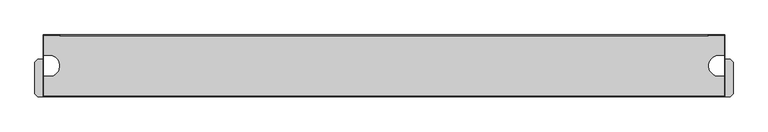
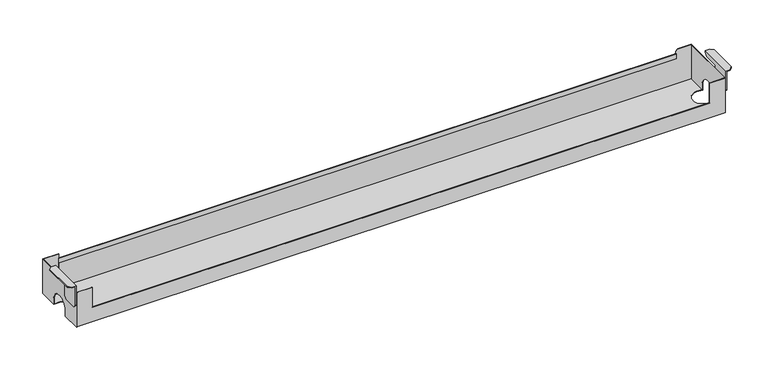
"""IFC4 building model written with IfcOpenShell, lengths in millimetres: furniture geometry, FREZZA_POP AD_Cable tray_for Desk : W1600 mm Structure_ZGBI - Embossed White."""

from ifc_helpers import new_model, si_unit, frame, origin, place, context, project, spatial, polyline, circle_curve, faceted_brep, source, transform, mapped, element, save
from ifc_brep_helpers import plane_surface, cylinder_surface, revolved_surface, advanced_brep


def furniture_a0c20fb1(model_context):
    return source(origin(), model_context, "Body", "SolidModel", [
        faceted_brep([(128.0710678, -203.5, 725.0), (139.0, -203.5, 725.0), (139.0, -115.5, 725.0), (128.0710678, -115.5, 725.0), (121.0, -122.5710678, 725.0), (121.0, -196.4289322, 725.0), (128.0710678, -203.5, 723.0), (121.0, -196.4289322, 723.0), (121.0, -122.5710678, 723.0), (128.0710678, -115.5, 723.0), (137.0, -115.5, 723.0), (137.0, -203.5, 723.0), (137.0, -203.5, 674.0710678), (139.0, -203.5, 674.0710678), (139.0, -115.5, 720.0710678), (137.0, -115.5, 720.0710678), (139.0, -196.4289322, 667.0), (139.0, -165.5710678, 667.0), (139.0, -158.5, 674.0710678), (139.0, -158.5, 713.0), (139.0, -122.5710678, 713.0), (137.0, -165.5710678, 667.0), (137.0, -196.4289322, 667.0), (137.0, -122.5710678, 713.0), (137.0, -158.5, 713.0), (137.0, -158.5, 674.0710678)], [[[0, 1, 2, 3, 4, 5]], [[6, 7, 8, 9, 10, 11]], [[0, 6, 11, 12, 13, 1]], [[0, 5, 7, 6]], [[5, 4, 8, 7]], [[4, 3, 9, 8]], [[9, 3, 2, 14, 15, 10]], [[14, 2, 1, 13, 16, 17, 18, 19, 20]], [[21, 22, 12, 11, 10, 15, 23, 24, 25]], [[17, 16, 22, 21]], [[16, 13, 12, 22]], [[14, 20, 23, 15]], [[20, 19, 24, 23]], [[19, 18, 25, 24]], [[18, 17, 21, 25]]]),
        faceted_brep([(1741.0, -203.5, 725.0), (1751.9289322, -203.5, 725.0), (1759.0, -196.4289322, 725.0), (1759.0, -122.5710678, 725.0), (1751.9289322, -115.5, 725.0), (1741.0, -115.5, 725.0), (1751.9289322, -115.5, 723.0), (1759.0, -122.5710678, 723.0), (1759.0, -196.4289322, 723.0), (1751.9289322, -203.5, 723.0), (1743.0, -203.5, 723.0), (1743.0, -115.5, 723.0), (1741.0, -203.5, 674.0710678), (1743.0, -203.5, 674.0710678), (1743.0, -115.5, 720.0710678), (1741.0, -115.5, 720.0710678), (1741.0, -122.5710678, 713.0), (1741.0, -158.5, 713.0), (1741.0, -158.5, 674.0710678), (1741.0, -165.5710678, 667.0), (1741.0, -196.4289322, 667.0), (1743.0, -165.5710678, 667.0), (1743.0, -158.5, 674.0710678), (1743.0, -158.5, 713.0), (1743.0, -122.5710678, 713.0), (1743.0, -196.4289322, 667.0)], [[[0, 1, 2, 3, 4, 5]], [[6, 7, 8, 9, 10, 11]], [[12, 13, 10, 9, 1, 0]], [[2, 1, 9, 8]], [[3, 2, 8, 7]], [[4, 3, 7, 6]], [[4, 6, 11, 14, 15, 5]], [[12, 0, 5, 15, 16, 17, 18, 19, 20]], [[21, 22, 23, 24, 14, 11, 10, 13, 25]], [[20, 19, 21, 25]], [[12, 20, 25, 13]], [[16, 15, 14, 24]], [[17, 16, 24, 23]], [[18, 17, 23, 22]], [[19, 18, 22, 21]]]),
        advanced_brep(
        [(178.75, -203.5, 707.0), (178.75, -202.5, 707.0), (141.0, -202.5, 707.0), (141.0, -59.5, 707.0), (178.75, -59.5, 707.0), (178.75, -58.5, 707.0), (140.0, -58.5, 707.0), (140.0, -203.5, 707.0), (178.75, -58.5, 655.3463745), (178.962132, -58.5, 655.3463745), (178.962132, -58.5, 695.75), (1701.037868, -58.5, 695.75), (1701.037868, -58.5, 655.3463745), (1701.25, -58.5, 655.3463745), (1701.25, -58.5, 702.0), (1706.25, -58.5, 707.0), (1740.0, -58.5, 707.0), (1740.0, -58.5, 618.05), (1740.0, -58.5, 616.5963745), (141.0, -58.5, 616.5963745), (140.0, -58.5, 616.5963745), (178.75, -59.5, 655.3463745), (141.0, -59.5, 618.05), (1739.0, -59.5, 618.05), (1739.0, -59.5, 707.0), (1706.25, -59.5, 707.0), (1701.25, -59.5, 702.0), (1701.25, -59.5, 655.3463745), (1701.037868, -59.5, 655.3463745), (1701.037868, -59.5, 685.0), (178.962132, -59.5, 685.0), (178.962132, -59.5, 655.3463745), (140.0, -106.1, 616.5963745), (140.0, -106.1, 631.0), (140.0, -155.9, 631.0), (140.0, -155.9, 616.5963745), (140.0, -203.5, 616.5963745), (1740.0, -106.1, 616.5963745), (1726.0, -106.1, 616.5963745), (1726.0, -155.9, 616.5963745), (1740.0, -155.9, 616.5963745), (1740.0, -203.5, 616.5963745), (141.0, -203.5, 616.5963745), (155.0, -155.9, 616.5963745), (155.0, -106.1, 616.5963745), (1739.0, -202.5, 707.0), (1701.25, -202.5, 707.0), (1701.25, -203.5, 707.0), (1740.0, -203.5, 707.0), (1740.0, -155.9, 631.0), (1740.0, -106.1, 631.0), (1740.0, -203.5, 618.05), (1739.0, -106.1, 631.0), (1739.0, -155.9, 631.0), (1739.0, -155.9, 618.05), (1739.0, -202.5, 618.05), (1739.0, -106.1, 618.05), (1701.25, -203.5, 655.3463745), (178.75, -203.5, 655.3463745), (1726.0, -155.9, 618.05), (1726.0, -106.1, 618.05), (178.962132, -61.0, 685.0), (178.962132, -61.0, 695.75), (1701.037868, -61.0, 695.75), (1701.037868, -61.0, 685.0), (178.75, -202.5, 655.3463745), (1701.25, -202.5, 655.3463745), (141.0, -202.5, 618.05), (141.0, -106.1, 618.05), (155.0, -106.1, 618.05), (155.0, -155.9, 618.05), (141.0, -155.9, 618.05), (141.0, -106.1, 631.0), (141.0, -155.9, 631.0)],
        [
            (0, 1),
            (1, 2),
            (2, 3),
            (3, 4),
            (4, 5),
            (5, 6),
            (6, 7),
            (7, 0),
            (5, 8),
            (8, 9),
            (9, 10),
            (10, 11),
            (11, 12),
            (12, 13),
            (13, 14),
            (14, 15),
            (15, 16),
            (16, 17),
            (17, 18),
            (18, 19),
            (19, 20),
            (20, 6),
            (4, 21),
            (21, 8),
            (3, 22),
            (22, 23),
            (23, 24),
            (24, 25),
            (25, 26),
            (26, 27),
            (27, 28),
            (28, 29),
            (29, 30),
            (30, 31),
            (31, 21),
            (20, 32),
            (32, 33),
            (33, 34, circle_curve(frame((140.0, -131.0, 631.0), z_axis=(1.0, 0.0, 0.0), x_axis=(0.0, 1.0, 0.0)), 24.9)),
            (34, 35),
            (35, 36),
            (36, 7),
            (31, 9),
            (27, 13),
            (12, 28),
            (18, 37),
            (37, 38),
            (38, 39, circle_curve(frame((1726.0, -131.0, 616.5963745), z_axis=(0.0, 0.0, 1.0), x_axis=(-1.0, 0.0, 0.0)), 24.9)),
            (39, 40),
            (40, 41),
            (41, 42),
            (42, 36),
            (35, 43),
            (43, 44, circle_curve(frame((155.0, -131.0, 616.5963745), z_axis=(0.0, 0.0, 1.0), x_axis=(-1.0, 0.0, 0.0)), 24.9)),
            (44, 32),
            (15, 25),
            (24, 45),
            (45, 46),
            (46, 47),
            (47, 48),
            (48, 16),
            (26, 14),
            (49, 50, circle_curve(frame((1740.0, -131.0, 631.0), z_axis=(-1.0, 0.0, 0.0), x_axis=(0.0, 1.0, 0.0)), 24.9)),
            (50, 37),
            (48, 51),
            (51, 41),
            (40, 49),
            (52, 53, circle_curve(frame((1739.0, -131.0, 631.0), z_axis=(1.0, 0.0, 0.0), x_axis=(0.0, 1.0, 0.0)), 24.9)),
            (53, 54),
            (54, 55),
            (55, 45),
            (23, 56),
            (56, 52),
            (47, 57),
            (57, 58),
            (58, 0),
            (53, 49),
            (39, 59),
            (59, 54),
            (52, 50),
            (56, 60),
            (60, 38),
            (30, 61),
            (61, 62),
            (62, 10, circle_curve(frame((178.962132, -59.75, 695.75), z_axis=(-1.0, 0.0, 0.0), x_axis=(0.0, 1.0, 0.0)), 1.25)),
            (11, 63, circle_curve(frame((1701.037868, -59.75, 695.75), z_axis=(1.0, 0.0, 0.0), x_axis=(0.0, 1.0, 0.0)), 1.25)),
            (63, 64),
            (64, 29),
            (64, 61),
            (63, 62),
            (58, 65),
            (65, 1),
            (65, 66),
            (66, 46),
            (55, 67),
            (67, 2),
            (57, 66),
            (59, 60, circle_curve(frame((1726.0, -131.0, 618.05), z_axis=(0.0, 0.0, -1.0), x_axis=(-1.0, 0.0, 0.0)), 24.9)),
            (22, 68),
            (68, 69),
            (69, 70, circle_curve(frame((155.0, -131.0, 618.05), z_axis=(0.0, 0.0, -1.0), x_axis=(-1.0, 0.0, 0.0)), 24.9)),
            (70, 71),
            (71, 67),
            (44, 69),
            (68, 72),
            (72, 33),
            (43, 70),
            (34, 73),
            (73, 71),
            (73, 72, circle_curve(frame((141.0, -131.0, 631.0), z_axis=(-1.0, 0.0, 0.0), x_axis=(0.0, 1.0, 0.0)), 24.9)),
        ],
        [
            plane_surface(frame((140.0, -130.5, 707.0), z_axis=(0.0, 0.0, 1.0), x_axis=(0.0, -1.0, 0.0))),
            plane_surface(frame((178.75, -58.5, 707.0), z_axis=(0.0, 1.0, 0.0), x_axis=(0.0, 0.0, -1.0))),
            plane_surface(frame((178.75, -59.5, 707.0), z_axis=(1.0, 0.0, 0.0), x_axis=(0.0, 0.0, -1.0))),
            plane_surface(frame((140.0, -59.5, 707.0), z_axis=(0.0, -1.0, 0.0), x_axis=(0.0, 0.0, -1.0))),
            plane_surface(frame((140.0, -58.5, 707.0), z_axis=(-1.0, 0.0, 0.0), x_axis=(0.0, 0.0, -1.0))),
            plane_surface(frame((178.75, -59.5, 655.3463745), z_axis=(0.0, 0.0, 1.0), x_axis=(1.0, 0.0, 0.0))),
            plane_surface(frame((140.0, -58.5, 616.5963745), z_axis=(0.0, 0.0, -1.0), x_axis=(1.0, 0.0, 0.0))),
            plane_surface(frame((1740.0, -130.5, 707.0), z_axis=(0.0, 0.0, 1.0), x_axis=(0.0, -1.0, 0.0))),
            plane_surface(frame((1701.25, -59.5, 655.3463745), z_axis=(-1.0, 0.0, 0.0), x_axis=(0.0, 0.0, 1.0))),
            plane_surface(frame((1740.0, -58.5, 616.5963745), z_axis=(1.0, 0.0, 0.0), x_axis=(0.0, 0.0, 1.0))),
            plane_surface(frame((1739.0, -58.5, 707.0), z_axis=(-1.0, 0.0, 0.0), x_axis=(0.0, 0.0, -1.0))),
            plane_surface(frame((1739.0, -203.5, 616.5963745), z_axis=(0.0, -1.0, 0.0), x_axis=(1.0, 0.0, 0.0))),
            plane_surface(frame((1739.0, -155.9, 631.0), z_axis=(0.0, 1.0, 0.0), x_axis=(1.0, 0.0, 0.0))),
            revolved_surface(polyline([(1740.0, -106.1, 631.0), (1739.0, -106.1, 631.0)]), (1740.0, -131.0, 631.0), (1.0, 0.0, 0.0)),
            plane_surface(frame((1739.0, -106.1, 616.5963745), z_axis=(0.0, -1.0, 0.0), x_axis=(1.0, 0.0, 0.0))),
            plane_surface(frame((178.962132, -58.5, 707.0), z_axis=(-1.0, 0.0, 0.0), x_axis=(0.0, 0.0, 1.0))),
            plane_surface(frame((1701.037868, -58.5, 707.0), z_axis=(1.0, 0.0, 0.0), x_axis=(0.0, 0.0, 1.0))),
            plane_surface(frame((178.962132, -59.5, 685.0), z_axis=(0.0, 0.0, -1.0), x_axis=(1.0, 0.0, 0.0))),
            plane_surface(frame((178.962132, -61.0, 685.0), z_axis=(0.0, -1.0, 0.0), x_axis=(1.0, 0.0, 0.0))),
            cylinder_surface(frame((178.962132, -59.75, 695.75), z_axis=(-1.0, 0.0, 0.0), x_axis=(0.0, 1.0, 0.0)), 1.25),
            plane_surface(frame((178.75, -203.5, 707.0), z_axis=(1.0, 0.0, 0.0), x_axis=(0.0, 0.0, -1.0))),
            plane_surface(frame((178.75, -202.5, 707.0), z_axis=(0.0, 1.0, 0.0), x_axis=(0.0, 0.0, -1.0))),
            plane_surface(frame((178.75, -203.5, 655.3463745), z_axis=(0.0, 0.0, 1.0), x_axis=(1.0, 0.0, 0.0))),
            plane_surface(frame((1701.25, -203.5, 655.3463745), z_axis=(-1.0, 0.0, 0.0), x_axis=(0.0, 0.0, 1.0))),
            plane_surface(frame((1740.0, -203.5, 618.05), z_axis=(0.0, 0.0, 1.0), x_axis=(0.0, 1.0, 0.0))),
            revolved_surface(polyline([(1701.1, -131.0, 616.5963745), (1701.1, -131.0, 618.05)]), (1726.0, -131.0, 616.5963745), (0.0, 0.0, -1.0)),
            plane_surface(frame((140.0, -106.1, 618.05), z_axis=(0.0, -1.0, 0.0), x_axis=(0.0, 0.0, -1.0))),
            revolved_surface(polyline([(130.1, -131.0, 616.5963745), (130.1, -131.0, 618.05)]), (155.0, -131.0, 616.5963745), (0.0, 0.0, -1.0)),
            plane_surface(frame((155.0, -155.9, 618.05), z_axis=(0.0, 1.0, 0.0), x_axis=(0.0, 0.0, -1.0))),
            plane_surface(frame((141.0, -203.5, 707.0), z_axis=(1.0, 0.0, 0.0), x_axis=(0.0, -1.0, 0.0))),
            revolved_surface(polyline([(140.0, -106.1, 631.0), (141.0, -106.1, 631.0)]), (140.0, -131.0, 631.0), (-1.0, 0.0, 0.0)),
            plane_surface(frame((1706.25, -58.5, 707.0), z_axis=(-0.7071067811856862, 0.0, 0.707106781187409), x_axis=(0.0, -1.0, 0.0))),
        ],
        [
            (0, [[1, 2, 3, 4, 5, 6, 7, 8]]),
            (1, [[-6, 9, 10, 11, 12, 13, 14, 15, 16, 17, 18, 19, 20, 21, 22]]),
            (2, [[-5, 23, 24, -9]]),
            (3, [[-23, -4, 25, 26, 27, 28, 29, 30, 31, 32, 33, 34, 35]]),
            (4, [[-7, -22, 36, 37, 38, 39, 40, 41]]),
            (5, [[-24, -35, 42, -10]]),
            (5, [[43, -14, 44, -31]]),
            (6, [[45, 46, 47, 48, 49, 50, 51, -40, 52, 53, 54, -36, -21, -20]]),
            (7, [[55, -28, 56, 57, 58, 59, 60, -17]]),
            (8, [[-43, -30, 61, -15]]),
            (9, [[62, 63, -45, -19, -18, -60, 64, 65, -49, 66]]),
            (10, [[67, 68, 69, 70, -56, -27, 71, 72]]),
            (11, [[73, 74, 75, -8, -41, -51, -50, -65, -64, -59]]),
            (12, [[76, -66, -48, 77, 78, -68]]),
            (13, [[-67, 79, -62, -76]]),
            (14, [[-79, -72, 80, 81, -46, -63]]),
            (15, [[-34, 82, 83, 84, -11, -42]]),
            (16, [[-13, 85, 86, 87, -32, -44]]),
            (17, [[-82, -33, -87, 88]]),
            (18, [[-83, -88, -86, 89]]),
            (19, [[-84, -89, -85, -12]]),
            (20, [[-1, -75, 90, 91]]),
            (21, [[-91, 92, 93, -57, -70, 94, 95, -2]]),
            (22, [[-74, 96, -92, -90]]),
            (23, [[-73, -58, -93, -96]]),
            (24, [[97, -80, -71, -26, 98, 99, 100, 101, 102, -94, -69, -78]]),
            (25, [[-97, -77, -47, -81]]),
            (26, [[-37, -54, 103, -99, 104, 105]]),
            (27, [[-100, -103, -53, 106]]),
            (28, [[-106, -52, -39, 107, 108, -101]]),
            (29, [[109, -104, -98, -25, -3, -95, -102, -108]]),
            (30, [[-109, -107, -38, -105]]),
            (31, [[-16, -61, -29, -55]]),
        ],
    ),
    ])


if __name__ == "__main__":
    model = new_model("IFC4")
    model_context = context("Model", 3, world=origin())
    ifc_project = project(units=[si_unit("LENGTHUNIT", "METRE", prefix="MILLI")], contexts=[model_context])
    site = spatial("IfcSite", under=ifc_project)
    building = spatial("IfcBuilding", under=site)
    placement = place(None, origin())
    furniture_shape = furniture_a0c20fb1(model_context)
    element("IfcFurniture", 1, ObjectType="FREZZA_POP AD_Cable tray_for Desk : W1600 mm Structure_ZGBI - Embossed White", at=placement, inside=building, context=model_context, shape_type="MappedRepresentation", body=[
        mapped(furniture_shape, transform((0.0, 0.0, 0.0), x_axis=(1.0, 0.0, 0.0), y_axis=(0.0, 1.0, 0.0), z_axis=(0.0, 0.0, 1.0))),
    ])
    save(model, "model.ifc")
